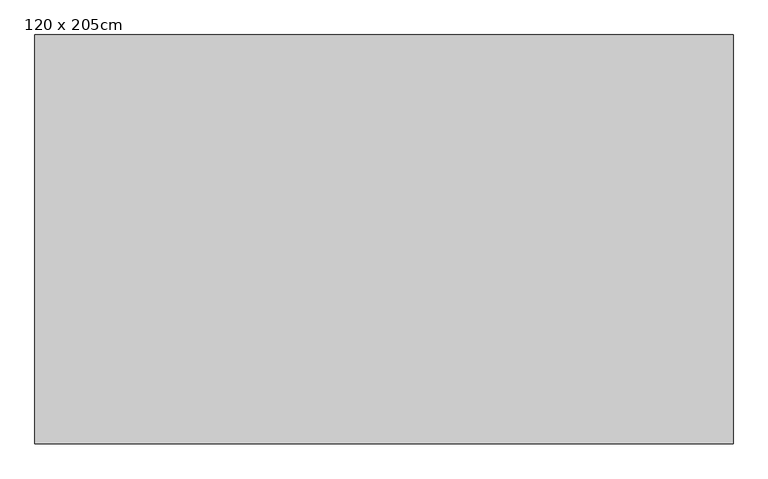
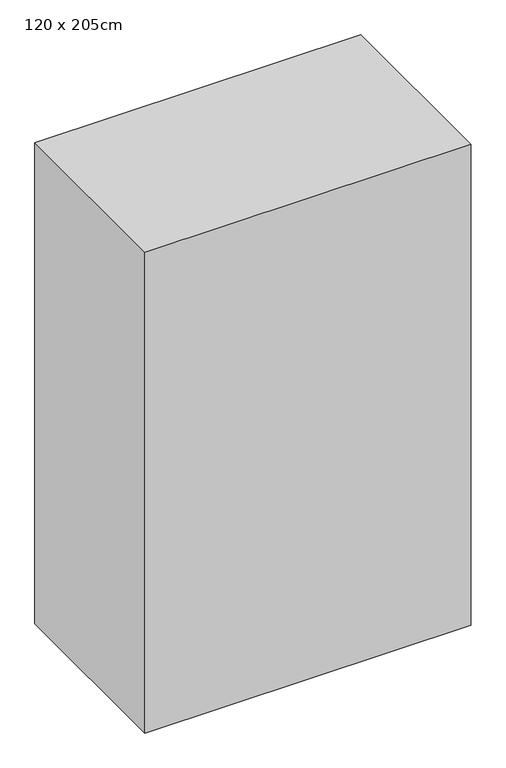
"""IFC4 building model written with IfcOpenShell, lengths in millimetres: column geometry, 混凝土柱-矩形 : 120 x 205cm."""

from ifc_helpers import new_model, si_unit, frame, origin, place, context, project, spatial, polyline, outline, extrude, source, transform, mapped, element, save


def column_120_x_205cm_2bef428c(model_context):
    return source(origin(), model_context, "Body", "SweptSolid", [
        extrude(outline(polyline([(1025.0, 600.0), (1025.0, -600.0), (-1025.0, -600.0), (-1025.0, 600.0), (1025.0, 600.0)])), frame((0.0, 0.0, -9600.0), z_axis=(0.0, 0.0, 1.0), x_axis=(1.0, 0.0, 0.0)), (0.0, 0.0, 1.0), 3200.0),
    ])


if __name__ == "__main__":
    model = new_model("IFC4")
    model_context = context("Model", 3, world=origin())
    ifc_project = project(units=[si_unit("LENGTHUNIT", "METRE", prefix="MILLI")], contexts=[model_context])
    site = spatial("IfcSite", under=ifc_project)
    building = spatial("IfcBuilding", under=site)
    placement = place(None, origin())
    column_120_x_205cm_shape = column_120_x_205cm_2bef428c(model_context)
    element("IfcColumn", 1, ObjectType="混凝土柱-矩形 : 120 x 205cm", at=placement, inside=building, context=model_context, shape_type="MappedRepresentation", body=[
        mapped(column_120_x_205cm_shape, transform((0.0, 0.0, 0.0), x_axis=(1.0, 0.0, 0.0), y_axis=(0.0, 1.0, 0.0), z_axis=(0.0, 0.0, 1.0))),
    ])
    save(model, "model.ifc")
